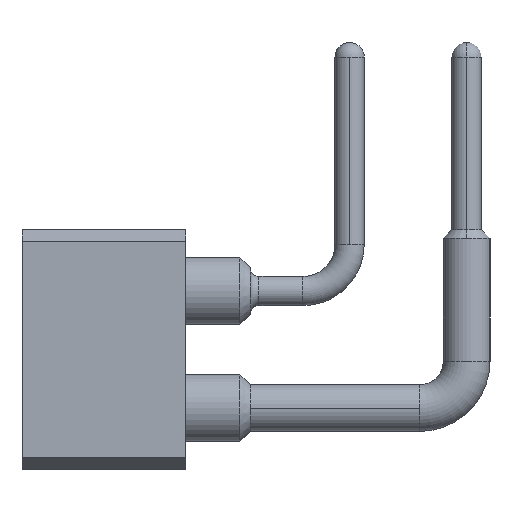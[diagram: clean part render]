
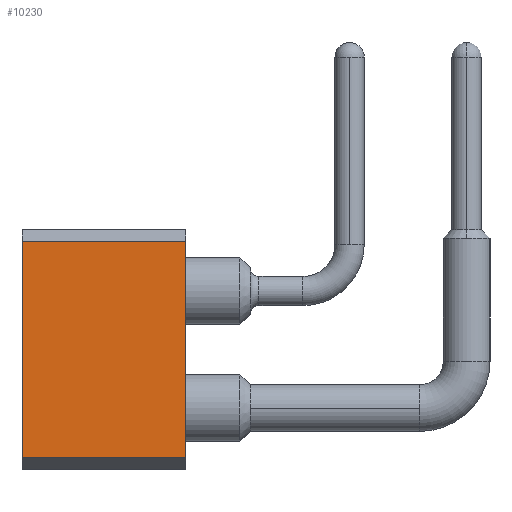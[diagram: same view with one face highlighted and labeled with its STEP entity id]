
A CAD part, left-side view. The second image highlights one B-rep face of the part: STEP entity #10230.
In plain terms, the highlighted planar face has unit normal (-1, 0, 0).
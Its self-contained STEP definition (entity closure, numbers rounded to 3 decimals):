
#764 = DIRECTION ( 'NONE',  ( 0., 1., 0. ) ) ;
#1130 = VERTEX_POINT ( 'NONE', #9759 ) ;
#1802 = EDGE_LOOP ( 'NONE', ( #2826, #17052, #5923, #4773 ) ) ;
#2714 = EDGE_CURVE ( 'NONE', #5647, #6634, #8899, .T. ) ;
#2751 = DIRECTION ( 'NONE',  ( 1., 0., 0. ) ) ;
#2826 = ORIENTED_EDGE ( 'NONE', *, *, #20962, .F. ) ;
#3566 = CARTESIAN_POINT ( 'NONE',  ( -4.5, 1.779, 3.9 ) ) ;
#4773 = ORIENTED_EDGE ( 'NONE', *, *, #20026, .T. ) ;
#5647 = VERTEX_POINT ( 'NONE', #9292 ) ;
#5923 = ORIENTED_EDGE ( 'NONE', *, *, #13317, .T. ) ;
#6003 = CARTESIAN_POINT ( 'NONE',  ( -4.5, -1.021, 0.2 ) ) ;
#6259 = AXIS2_PLACEMENT_3D ( 'NONE', #9075, #2751, #15386 ) ;
#6634 = VERTEX_POINT ( 'NONE', #12841 ) ;
#6745 = DIRECTION ( 'NONE',  ( 0., 0., 1. ) ) ;
#6931 = CARTESIAN_POINT ( 'NONE',  ( -4.5, -1.021, 0. ) ) ;
#7998 = VECTOR ( 'NONE', #16673, 1000. ) ;
#8330 = LINE ( 'NONE', #6931, #7998 ) ;
#8628 = VECTOR ( 'NONE', #19259, 1000. ) ;
#8862 = PLANE ( 'NONE',  #6259 ) ;
#8899 = LINE ( 'NONE', #6003, #20730 ) ;
#9075 = CARTESIAN_POINT ( 'NONE',  ( -4.5, 1.779, 0. ) ) ;
#9292 = CARTESIAN_POINT ( 'NONE',  ( -4.5, -1.021, 0.2 ) ) ;
#9759 = CARTESIAN_POINT ( 'NONE',  ( -4.5, -1.021, 3.9 ) ) ;
#10068 = LINE ( 'NONE', #15209, #13401 ) ;
#10230 = ADVANCED_FACE ( 'NONE', ( #15599 ), #8862, .F. ) ;
#12718 = CARTESIAN_POINT ( 'NONE',  ( -4.5, -1.021, 3.9 ) ) ;
#12841 = CARTESIAN_POINT ( 'NONE',  ( -4.5, 1.779, 0.2 ) ) ;
#13317 = EDGE_CURVE ( 'NONE', #5647, #1130, #8330, .T. ) ;
#13401 = VECTOR ( 'NONE', #6745, 1000. ) ;
#15209 = CARTESIAN_POINT ( 'NONE',  ( -4.5, 1.779, 0. ) ) ;
#15386 = DIRECTION ( 'NONE',  ( 0., 1., 0. ) ) ;
#15599 = FACE_OUTER_BOUND ( 'NONE', #1802, .T. ) ;
#16006 = VERTEX_POINT ( 'NONE', #3566 ) ;
#16250 = LINE ( 'NONE', #12718, #8628 ) ;
#16673 = DIRECTION ( 'NONE',  ( 0., 0., 1. ) ) ;
#17052 = ORIENTED_EDGE ( 'NONE', *, *, #2714, .F. ) ;
#19259 = DIRECTION ( 'NONE',  ( 0., 1., 0. ) ) ;
#20026 = EDGE_CURVE ( 'NONE', #1130, #16006, #16250, .T. ) ;
#20730 = VECTOR ( 'NONE', #764, 1000. ) ;
#20962 = EDGE_CURVE ( 'NONE', #6634, #16006, #10068, .T. ) ;
